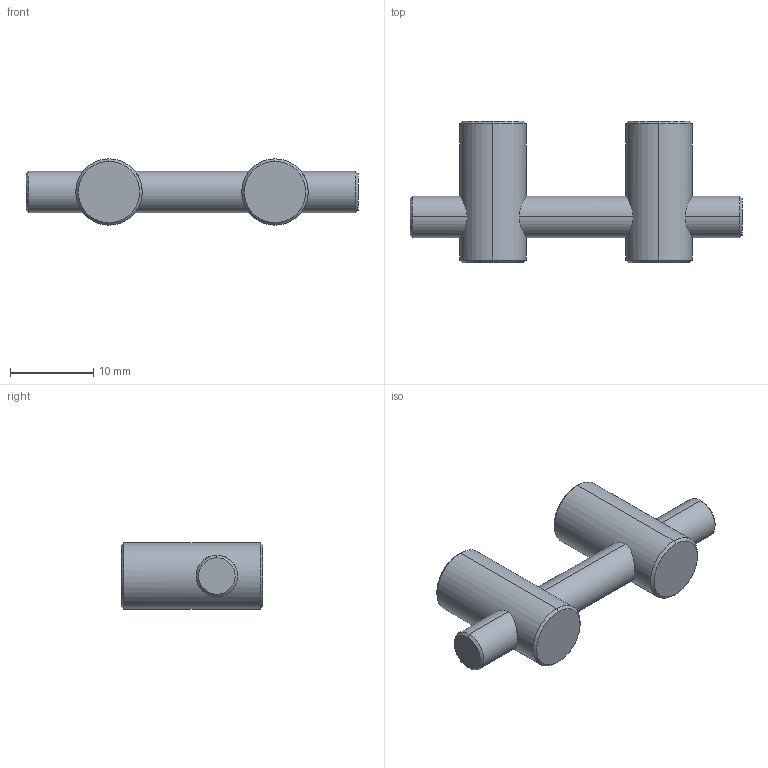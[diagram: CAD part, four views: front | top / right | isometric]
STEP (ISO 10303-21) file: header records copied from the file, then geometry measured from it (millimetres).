
FILE_DESCRIPTION (( 'STEP AP203' ), '1' );
FILE_NAME ('5722.STEP', '2025-08-08T10:26:12', ( '' ), ( '' ), 'SwSTEP 2.0', 'SolidWorks 2022', '' );
FILE_SCHEMA (( 'CONFIG_CONTROL_DESIGN' ));
Length unit declared in the file: millimetre
Products named in the file (4): 5722-2; 5722-3; 5722-1; 5722
Assembly tree (5 placements, depth 2):
  5722
    5722-1  x2
    5722-2
    5722-3  x2
Bounding box: 40 x 17 x 8 mm (x, y, z)
Volume: 2055.4 mm3; surface area: 2564.3 mm2
Topology: 5 solids, 5 shells, 190 faces, 512 edges, 334 vertices
Faces by surface type: cylinder 106, cone 32, bspline 28, plane 24
Entity records: 11840 total; most frequent: CARTESIAN_POINT 9278, ORIENTED_EDGE 534, DIRECTION 330, EDGE_CURVE 267, VERTEX_POINT 175, AXIS2_PLACEMENT_3D 125, EDGE_LOOP 110, FACE_OUTER_BOUND 102
